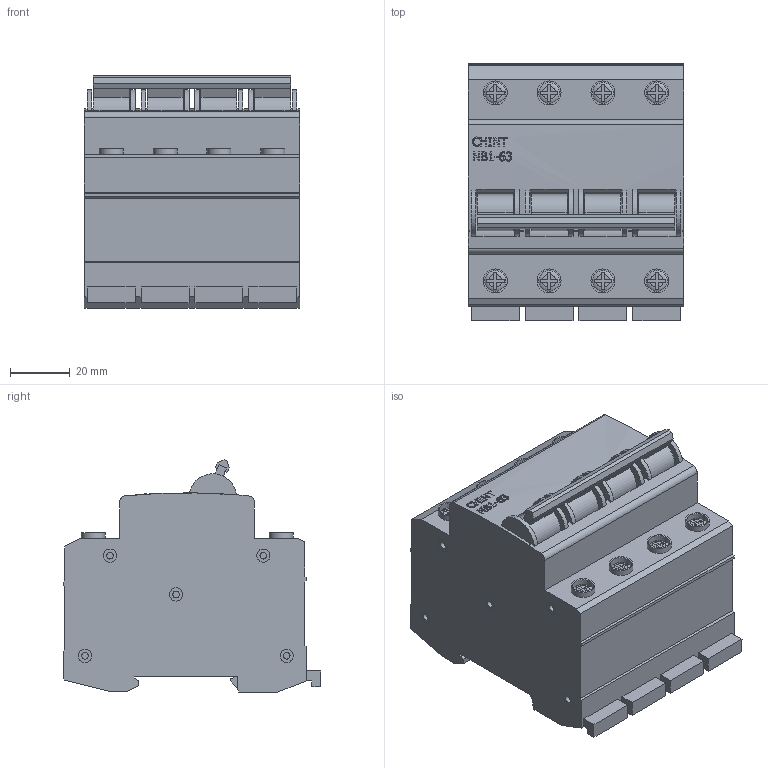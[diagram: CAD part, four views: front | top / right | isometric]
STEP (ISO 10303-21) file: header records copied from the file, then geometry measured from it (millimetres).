
FILE_DESCRIPTION(/* description */ (''),/* implementation_level */ '2;1');
FILE_NAME(/* name */ 'D:\CHINT\NB1-63\Авт. выкл. NB1-63 4P 16A 6кА х-ка B (DB) (CHINT).stp',/* time_stamp */ '2017-09-03T20:01:46+04:00',/* author */ ('RSagdiev'),/* organization */ (''),/* preprocessor_version */ 'ST-DEVELOPER v16.5',/* originating_system */ 'Autodesk Inventor 2017',/* authorisation */ '');
FILE_SCHEMA (('AUTOMOTIVE_DESIGN { 1 0 10303 214 3 1 1 }'));
Length unit declared in the file: millimetre
Products named in the file (1): Авт. выкл. NB1-63 4P 16A 6\X2\043A
0410\X0\ х-ка B (DB) (CHINT)
Bounding box: 72 x 86 x 77.58 mm (x, y, z)
Volume: 332481.1 mm3; surface area: 50420.5 mm2
Topology: 58 solids, 73 shells, 817 faces, 1824 edges, 1208 vertices
Faces by surface type: plane 565, cylinder 175, bspline 69, torus 8
Full cylindrical faces by diameter (mm): 2.211 x60, 4.422 x60, 7 x8, 8 x8
Entity records: 23295 total; most frequent: CARTESIAN_POINT 5439, DIRECTION 3598, ORIENTED_EDGE 3344, EDGE_CURVE 1672, AXIS2_PLACEMENT_3D 1315, VERTEX_POINT 1200, EDGE_LOOP 1096, LINE 968
